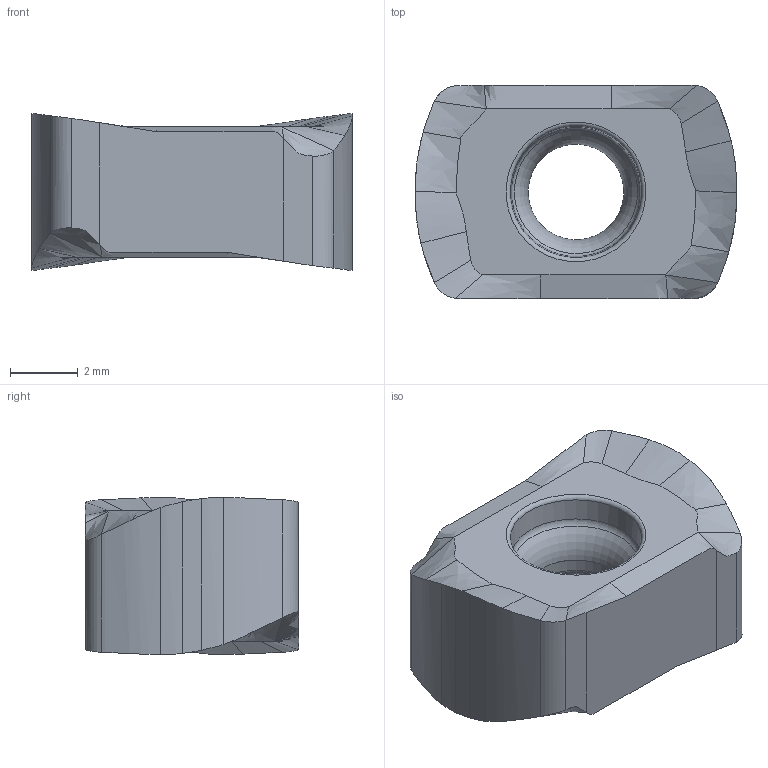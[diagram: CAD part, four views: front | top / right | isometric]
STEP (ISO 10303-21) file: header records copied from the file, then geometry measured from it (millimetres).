
FILE_DESCRIPTION(/* description */ (''),/* implementation_level */ '2;1');
FILE_NAME(/* name */ 'ENMX06 배포포용.stp',/* time_stamp */ '2021-01-18T16:26:06+09:00',/* author */ (''),/* organization */ (''),/* preprocessor_version */ 'ST-DEVELOPER v16',/* originating_system */ 'SIEMENS PLM Software NX 10.0',/* authorisation */ '');
FILE_SCHEMA (('AP203_CONFIGURATION_CONTROLLED_3D_DESIGN_OF_MECHANICAL_PARTS_AND_ASSEMBLIES_MIM_LF { 1 0 10303 403 2 1 2}'));
Length unit declared in the file: millimetre
Products named in the file (1): 12011BEC0D0A4ciw
Bounding box: 9.46 x 6.29 x 4.64 mm (x, y, z)
Volume: 178.5 mm3; surface area: 242.1 mm2
Topology: 1 solids, 1 shells, 66 faces, 263 edges, 200 vertices
Faces by surface type: bspline 32, cylinder 12, plane 11, torus 8, cone 3
Entity records: 4546 total; most frequent: CARTESIAN_POINT 2809, ORIENTED_EDGE 490, EDGE_CURVE 245, B_SPLINE_CURVE_WITH_KNOTS 216, VERTEX_POINT 193, DIRECTION 112, EDGE_LOOP 80, ADVANCED_FACE 66
